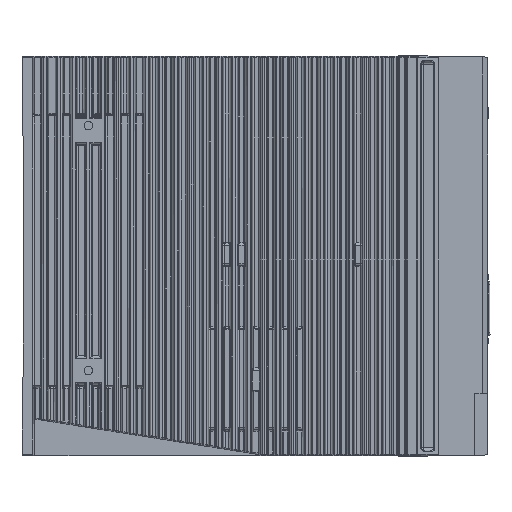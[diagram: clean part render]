
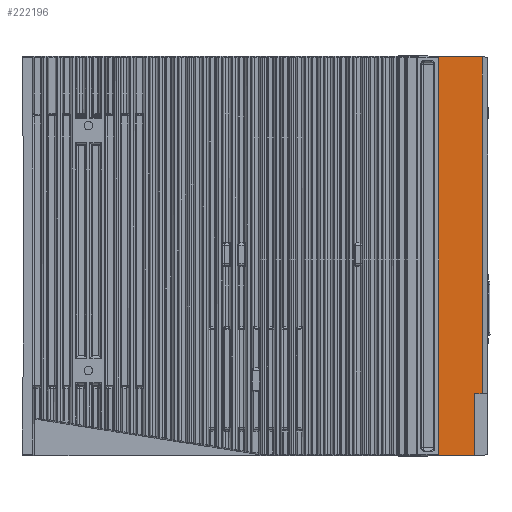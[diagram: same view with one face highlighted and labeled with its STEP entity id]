
A CAD part, left-side view. The second image highlights one B-rep face of the part: STEP entity #222196.
In plain terms, the highlighted planar face has unit normal (-1, -0.018, 0) as drawn and (0, -0.017, 1) by its records, which use the part's own axes.
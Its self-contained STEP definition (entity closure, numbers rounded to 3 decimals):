
#18343 = EDGE_CURVE ( 'NONE', #121776, #24575, #152051, .T. ) ;
#24575 = VERTEX_POINT ( 'NONE', #144169 ) ;
#32657 = EDGE_CURVE ( 'NONE', #200681, #156262, #172679, .T. ) ;
#36226 = ORIENTED_EDGE ( 'NONE', *, *, #18343, .F. ) ;
#38532 = VERTEX_POINT ( 'NONE', #107145 ) ;
#39272 = PLANE ( 'NONE',  #108956 ) ;
#51528 = LINE ( 'NONE', #255334, #279453 ) ;
#56408 = ORIENTED_EDGE ( 'NONE', *, *, #140148, .T. ) ;
#63616 = EDGE_LOOP ( 'NONE', ( #56408, #186515, #65319, #218705, #261814, #36226 ) ) ;
#65319 = ORIENTED_EDGE ( 'NONE', *, *, #199712, .F. ) ;
#78345 = CARTESIAN_POINT ( 'NONE',  ( -74.75, 2.024, 27.285 ) ) ;
#99468 = CARTESIAN_POINT ( 'NONE',  ( -51.798, 2.024, 27.285 ) ) ;
#103140 = VERTEX_POINT ( 'NONE', #257868 ) ;
#107145 = CARTESIAN_POINT ( 'NONE',  ( 75.186, 25., 27.686 ) ) ;
#108956 = AXIS2_PLACEMENT_3D ( 'NONE', #177153, #154644, #246069 ) ;
#121776 = VERTEX_POINT ( 'NONE', #245689 ) ;
#125572 = LINE ( 'NONE', #148088, #131387 ) ;
#127112 = VECTOR ( 'NONE', #295783, 1000. ) ;
#131387 = VECTOR ( 'NONE', #169075, 1000. ) ;
#140148 = EDGE_CURVE ( 'NONE', #121776, #200681, #51528, .T. ) ;
#144169 = CARTESIAN_POINT ( 'NONE',  ( -74.837, 5., 27.337 ) ) ;
#148088 = CARTESIAN_POINT ( 'NONE',  ( 74.742, -0.475, 27.242 ) ) ;
#149115 = DIRECTION ( 'NONE',  ( 1., 0., 0. ) ) ;
#150578 = CARTESIAN_POINT ( 'NONE',  ( 0., 25., 27.686 ) ) ;
#152051 = LINE ( 'NONE', #243485, #158635 ) ;
#154644 = DIRECTION ( 'NONE',  ( 0., -0.017, 1. ) ) ;
#156262 = VERTEX_POINT ( 'NONE', #277741 ) ;
#158635 = VECTOR ( 'NONE', #197019, 1000. ) ;
#168330 = DIRECTION ( 'NONE',  ( 0., -1., -0.017 ) ) ;
#169075 = DIRECTION ( 'NONE',  ( -0.017, -1., -0.017 ) ) ;
#172129 = EDGE_CURVE ( 'NONE', #103140, #38532, #195596, .T. ) ;
#172679 = LINE ( 'NONE', #78345, #224712 ) ;
#175950 = CARTESIAN_POINT ( 'NONE',  ( -74.727, -1.304, 27.227 ) ) ;
#177153 = CARTESIAN_POINT ( 'NONE',  ( 0., 0., 27.25 ) ) ;
#186515 = ORIENTED_EDGE ( 'NONE', *, *, #32657, .T. ) ;
#195596 = LINE ( 'NONE', #150578, #255665 ) ;
#197019 = DIRECTION ( 'NONE',  ( -1., 0., 0. ) ) ;
#199712 = EDGE_CURVE ( 'NONE', #38532, #156262, #125572, .T. ) ;
#199923 = LINE ( 'NONE', #175950, #127112 ) ;
#200681 = VERTEX_POINT ( 'NONE', #99468 ) ;
#218705 = ORIENTED_EDGE ( 'NONE', *, *, #172129, .F. ) ;
#222104 = FACE_OUTER_BOUND ( 'NONE', #63616, .T. ) ;
#222196 = ADVANCED_FACE ( 'NONE', ( #222104 ), #39272, .T. ) ;
#224712 = VECTOR ( 'NONE', #261147, 1000. ) ;
#243485 = CARTESIAN_POINT ( 'NONE',  ( 0., 5., 27.337 ) ) ;
#245689 = CARTESIAN_POINT ( 'NONE',  ( -51.798, 5., 27.337 ) ) ;
#246069 = DIRECTION ( 'NONE',  ( 0., -1., -0.017 ) ) ;
#255334 = CARTESIAN_POINT ( 'NONE',  ( -51.798, 0., 27.25 ) ) ;
#255665 = VECTOR ( 'NONE', #149115, 1000. ) ;
#257868 = CARTESIAN_POINT ( 'NONE',  ( -75.186, 25., 27.686 ) ) ;
#261147 = DIRECTION ( 'NONE',  ( 1., 0., 0. ) ) ;
#261814 = ORIENTED_EDGE ( 'NONE', *, *, #262709, .T. ) ;
#262709 = EDGE_CURVE ( 'NONE', #103140, #24575, #199923, .T. ) ;
#277741 = CARTESIAN_POINT ( 'NONE',  ( 74.785, 2.024, 27.285 ) ) ;
#279453 = VECTOR ( 'NONE', #168330, 1000. ) ;
#295783 = DIRECTION ( 'NONE',  ( 0.017, -1., -0.017 ) ) ;
